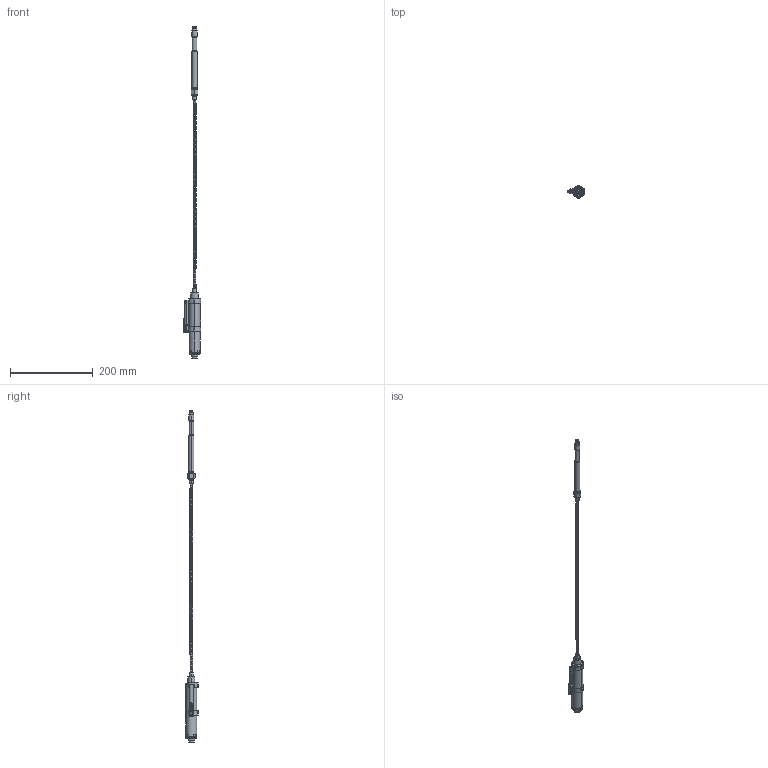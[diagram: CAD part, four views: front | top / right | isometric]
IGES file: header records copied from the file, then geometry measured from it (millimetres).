
Start section: SolidWorks IGES file using analytic representation for surfaces
Global section: file name: C:\Users\giuseppe.cherchi\Desktop\Nuova cartella (2)\3D\Iges 5.3\KE1 8 PL 'c'.IGS; native system: SolidWorks 2014; preprocessor: SolidWorks 2014; author: giuseppe.cherchi; date: 150127.133332; units: millimetre
Bounding box: 41.99 x 29.75 x 802.22 mm (x, y, z)
Surface area: 70226.5 mm2 (no closed solid volume)
Topology: 0 solids, 0 shells, 1916 faces, 16683 edges, 16592 vertices
Faces by surface type: bspline 1152, revolution 764
